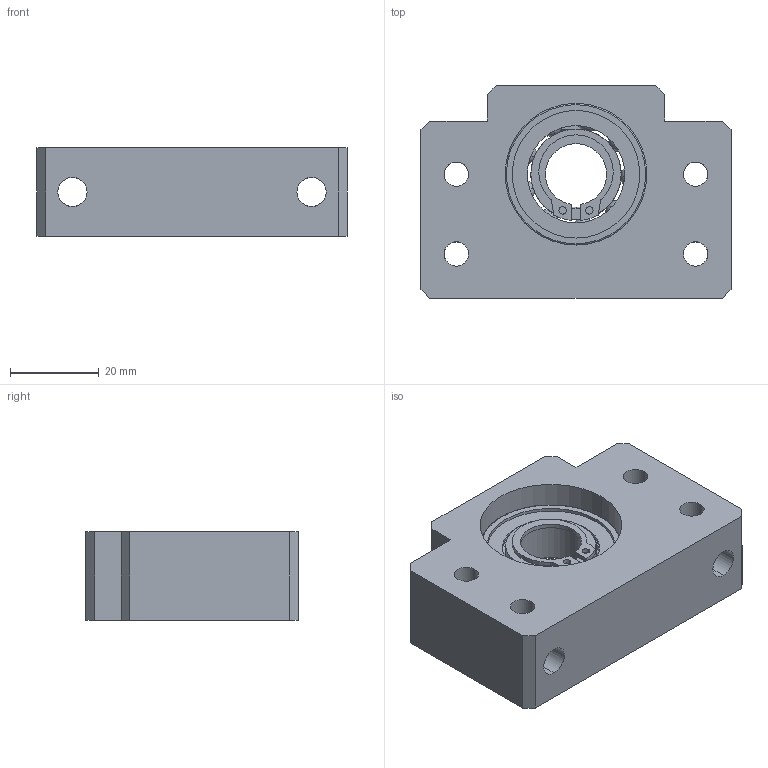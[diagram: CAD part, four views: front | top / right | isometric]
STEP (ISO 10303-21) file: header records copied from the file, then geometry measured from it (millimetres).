
FILE_DESCRIPTION (( 'STEP AP214' ), '1' );
FILE_NAME ('7.4011 BF15.STEP', '2026-03-06T06:39:05', ( '' ), ( '' ), 'SwSTEP 2.0', 'SolidWorks 2025', '' );
FILE_SCHEMA (( 'AUTOMOTIVE_DESIGN' ));
Length unit declared in the file: millimetre
Products named in the file (1): 7.4011 BF15
Bounding box: 70 x 48 x 20 mm (x, y, z)
Volume: 44892.2 mm3; surface area: 17279.2 mm2
Topology: 2 solids, 2 shells, 331 faces, 1000 edges, 660 vertices
Faces by surface type: sphere 115, plane 90, cylinder 69, torus 40, bspline 17
Entity records: 22000 total; most frequent: CARTESIAN_POINT 11466, ORIENTED_EDGE 2000, DIRECTION 1758, EDGE_CURVE 1000, AXIS2_PLACEMENT_3D 761, VERTEX_POINT 660, CIRCLE 446, EDGE_LOOP 378
